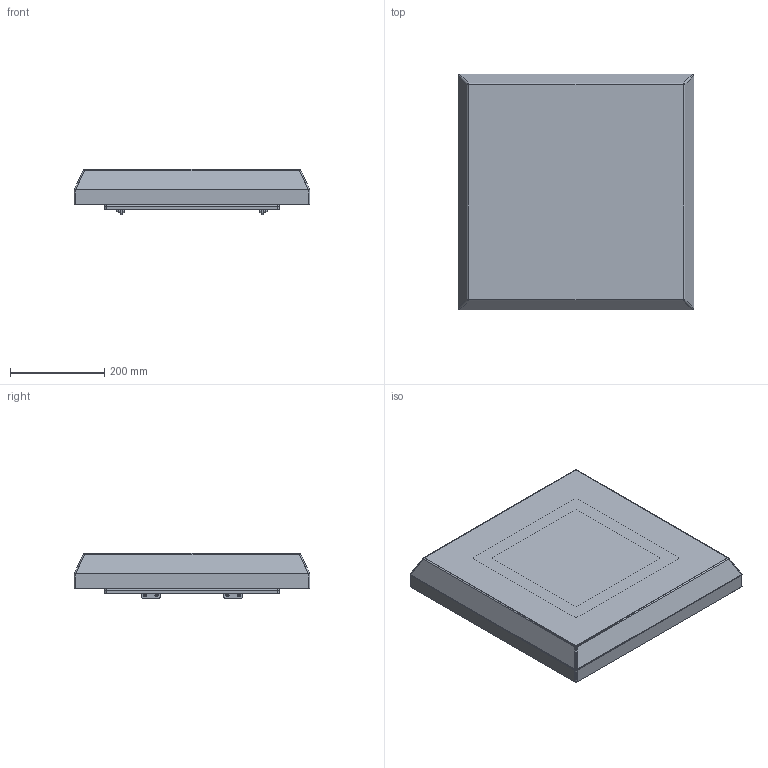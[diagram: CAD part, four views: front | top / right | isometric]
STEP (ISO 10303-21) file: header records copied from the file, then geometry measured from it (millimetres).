
FILE_DESCRIPTION(('STEP AP203'), '1');
FILE_NAME('3339 ÑÁ Óëè÷íàÿ êðûøà', '', ('UNSPECIFIED'), ('UNSPECIFIED'), 'C3D Converter', 'C3D Toolkit', '');
FILE_SCHEMA(('CONFIG_CONTROL_DESIGN'));
Length unit declared in the file: millimetre
Products named in the file (6): 3339.40.40 СБ; 3343; 3357
Assembly tree (21 placements, depth 2):
  3339.40.40 СБ
    3343
    3357  x4
    (unnamed)  x4
    (unnamed)  x4
    (unnamed)  x8
Bounding box: 500 x 500 x 96 mm (x, y, z)
Volume: 918293 mm3; surface area: 1100375.1 mm2
Topology: 22 solids, 22 shells, 602 faces, 1380 edges, 836 vertices
Faces by surface type: plane 230, cylinder 144, cone 120, bspline 64, torus 28, sphere 16
Full cylindrical faces by diameter (mm): 4.8 x8, 4.917 x4, 6 x4, 6.6 x4, 6.75 x4, 7 x8, 10 x4, 12 x4
Entity records: 12795 total; most frequent: CARTESIAN_POINT 6373, DIRECTION 1234, ORIENTED_EDGE 1038, EDGE_CURVE 519, AXIS2_PLACEMENT_3D 495, VERTEX_POINT 307, EDGE_LOOP 304, FACE_BOUND 264
